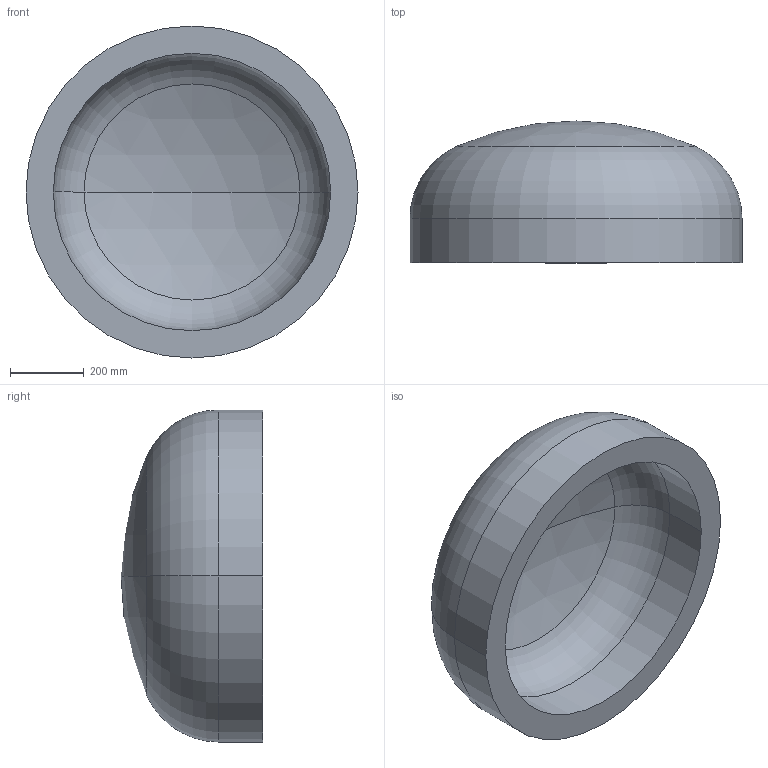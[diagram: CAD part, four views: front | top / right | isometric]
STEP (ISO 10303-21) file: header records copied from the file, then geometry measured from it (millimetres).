
FILE_DESCRIPTION (( 'STEP AP203' ), '1' );
FILE_NAME ('DIN 28013 Korbbogenform_-_Boden DIN 28013 - 900 x 120 - I - s=74.step', '2016-07-01T08:35:40', ( '' ), ( '' ), 'SwSTEP 2.0', 'SolidWorks 2013', '' );
FILE_SCHEMA (( 'CONFIG_CONTROL_DESIGN' ));
Length unit declared in the file: millimetre
Products named in the file (1): DIN 28013 Korbbogenform_-_Boden DIN 28013 - 900 x 120 - I - s=74
Bounding box: 900 x 384.18 x 900 mm (x, y, z)
Volume: 81984994.6 mm3; surface area: 2419305.9 mm2
Topology: 1 solids, 1 shells, 13 faces, 24 edges, 14 vertices
Faces by surface type: torus 4, cylinder 4, sphere 4, plane 1
Entity records: 407 total; most frequent: DIRECTION 72, CARTESIAN_POINT 52, ORIENTED_EDGE 48, AXIS2_PLACEMENT_3D 34, EDGE_CURVE 24, CIRCLE 20, EDGE_LOOP 14, VERTEX_POINT 14
